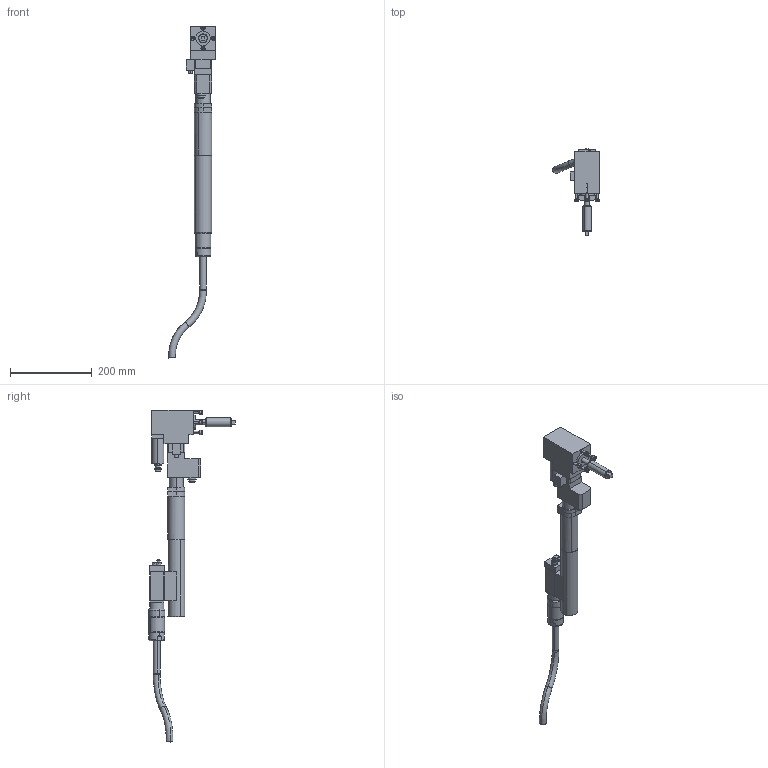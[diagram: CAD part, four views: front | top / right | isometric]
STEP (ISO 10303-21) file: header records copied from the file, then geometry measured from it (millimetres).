
FILE_DESCRIPTION(('CATIA V5 STEP Exchange'),'2;1');
FILE_NAME('O:\3D-Schrauber\Einschauschrauber Groesse1 CATIA V4+V5\7920529_ECR103_DR35_W1_AWD125-35_AllCATPart.stp','2008-11-06T10:40:31+00:00',('none'),('none'),'CATIA Version 5 Release 16 (IN-10)','CATIA V5 STEP AP203','none');
FILE_SCHEMA(('CONFIG_CONTROL_DESIGN'));
Length unit declared in the file: millimetre
Products named in the file (1): 7920529_ECR103_DR35_W1_AWD125-35_AllCATPart
Bounding box: 113.82 x 212.23 x 810.16 mm (x, y, z)
Volume: 1584355.9 mm3; surface area: 200482 mm2
Topology: 18 solids, 18 shells, 431 faces, 981 edges, 624 vertices
Faces by surface type: plane 200, cylinder 155, cone 44, torus 32
Entity records: 11343 total; most frequent: CARTESIAN_POINT 2260, ORIENTED_EDGE 1942, DIRECTION 1553, EDGE_CURVE 971, AXIS2_PLACEMENT_3D 731, VERTEX_POINT 623, VECTOR 512, LINE 512
